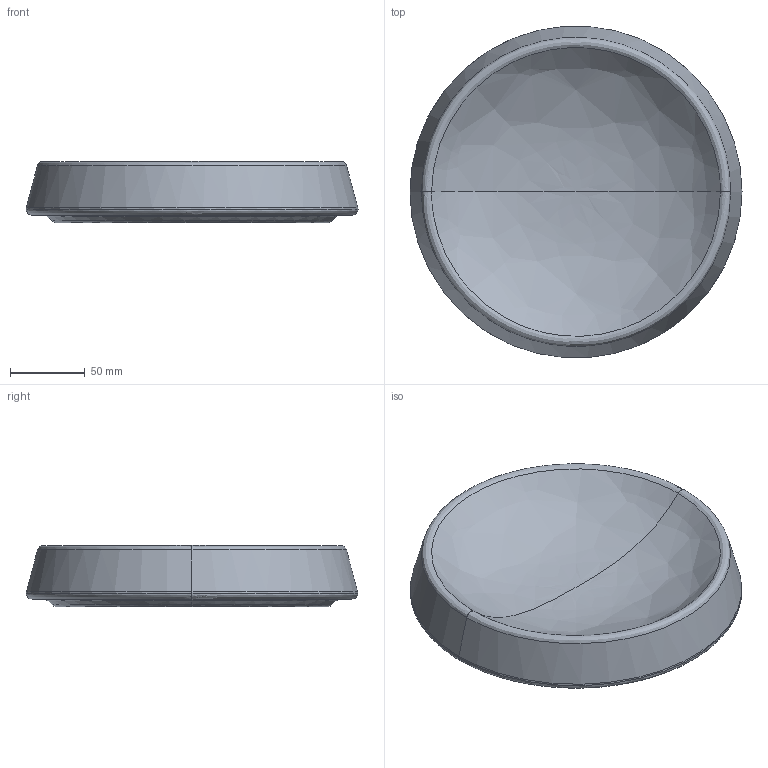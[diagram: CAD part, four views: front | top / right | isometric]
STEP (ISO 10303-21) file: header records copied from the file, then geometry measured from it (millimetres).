
FILE_DESCRIPTION(/* description */ (''),/* implementation_level */ '2;1');
FILE_NAME(/* name */ 'Pebosto bowl 22',/* time_stamp */ '2025-07-18T10:50:24+02:00',/* author */ (''),/* organization */ (''),/* preprocessor_version */ 'ST-DEVELOPER v16.5',/* originating_system */ 'Rhino 7.37',/* authorisation */ '');
FILE_SCHEMA (('AUTOMOTIVE_DESIGN'));
Length unit declared in the file: millimetre
Products named in the file (1): Document
Bounding box: 221.97 x 221.45 x 40.99 mm (x, y, z)
Volume: 891483.7 mm3; surface area: 99966.4 mm2
Topology: 1 solids, 1 shells, 18 faces, 36 edges, 19 vertices
Faces by surface type: bspline 16, plane 2
Entity records: 916 total; most frequent: CARTESIAN_POINT 693, ORIENTED_EDGE 68, EDGE_CURVE 34, EDGE_LOOP 19, VERTEX_POINT 19, ADVANCED_FACE 18, FACE_OUTER_BOUND 18, B_SPLINE_CURVE_WITH_KNOTS 6
